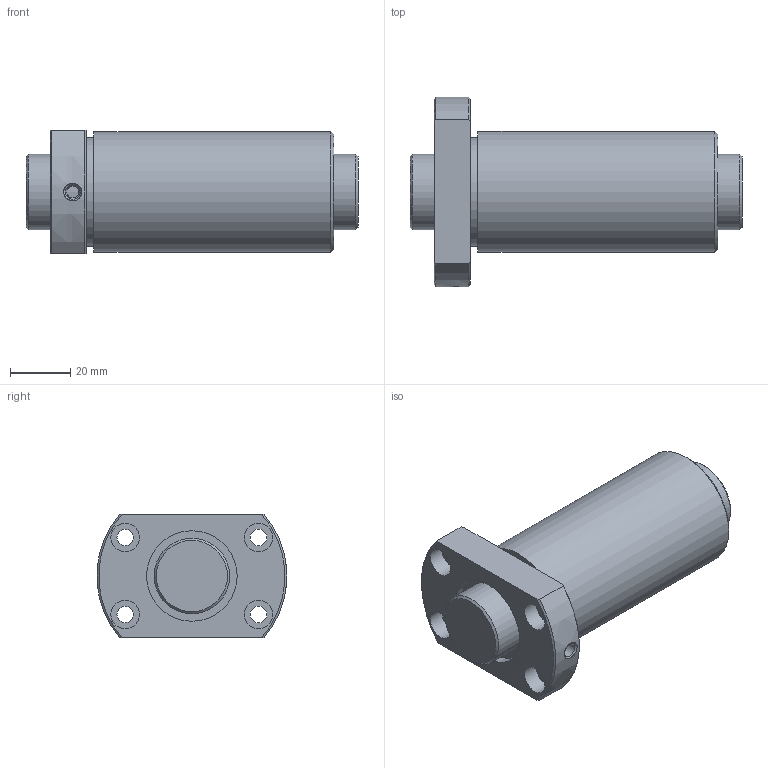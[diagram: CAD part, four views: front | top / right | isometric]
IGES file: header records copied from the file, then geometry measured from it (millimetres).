
Start section: Data from Parasolid IGES Translator 26.0.171, Copyright(c) 2006 Siemens PLM Software. All Rights Reserved.
Global section: file name: DIK2508-6RRG0+110LC0_000.igs; native system: By Siemens PLM Incorporated; preprocessor: XPlus GENERIC/IGES 26.0.171; author: Noname; organization: Noname; date: 20250113.095338; units: millimetre
Bounding box: 110 x 62.9 x 41 mm (x, y, z)
Surface area: 34800.5 mm2 (no closed solid volume)
Topology: 0 solids, 0 shells, 41 faces, 174 edges, 143 vertices
Faces by surface type: revolution 27, extrusion 14
